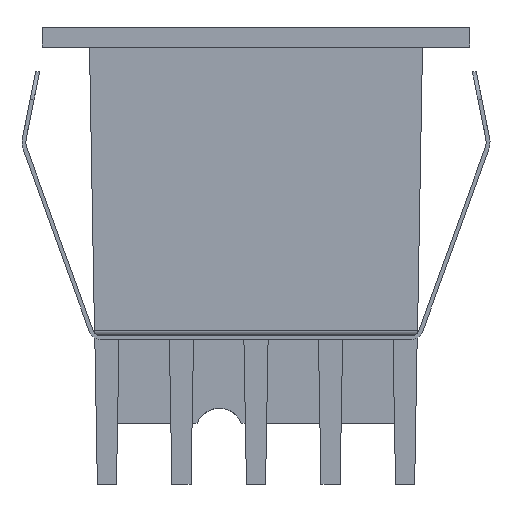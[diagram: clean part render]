
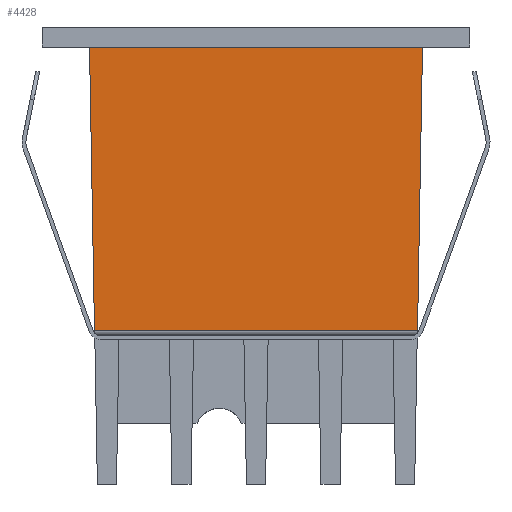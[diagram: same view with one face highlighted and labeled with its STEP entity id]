
A CAD part, front view. The second image highlights one B-rep face of the part: STEP entity #4428.
In plain terms, the highlighted planar face has unit normal (0, -1, -0.018).
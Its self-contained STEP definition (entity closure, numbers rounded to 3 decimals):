
#437=FACE_OUTER_BOUND('',#715,.T.);
#715=EDGE_LOOP('',(#3953,#3954,#3955,#3956));
#1169=LINE('',#7485,#1637);
#1179=LINE('',#7514,#1647);
#1185=LINE('',#7530,#1653);
#1186=LINE('',#7531,#1654);
#1637=VECTOR('',#5993,304.8);
#1647=VECTOR('',#6019,304.8);
#1653=VECTOR('',#6037,304.8);
#1654=VECTOR('',#6038,304.8);
#2135=VERTEX_POINT('',#7481);
#2136=VERTEX_POINT('',#7483);
#2147=VERTEX_POINT('',#7513);
#2151=VERTEX_POINT('',#7529);
#2735=EDGE_CURVE('',#2135,#2136,#1169,.T.);
#2749=EDGE_CURVE('',#2136,#2147,#1179,.T.);
#2757=EDGE_CURVE('',#2135,#2151,#1185,.T.);
#2758=EDGE_CURVE('',#2151,#2147,#1186,.T.);
#3953=ORIENTED_EDGE('',*,*,#2757,.F.);
#3954=ORIENTED_EDGE('',*,*,#2735,.T.);
#3955=ORIENTED_EDGE('',*,*,#2749,.T.);
#3956=ORIENTED_EDGE('',*,*,#2758,.F.);
#4174=PLANE('',#4824);
#4428=ADVANCED_FACE('',(#437),#4174,.T.);
#4824=AXIS2_PLACEMENT_3D('',#7528,#6035,#6036);
#5993=DIRECTION('',(-1.,0.,0.));
#6019=DIRECTION('',(0.017,0.017,-1.));
#6035=DIRECTION('center_axis',(0.,-1.,-0.017));
#6036=DIRECTION('ref_axis',(-1.,0.,0.));
#6037=DIRECTION('',(-0.017,0.017,-1.));
#6038=DIRECTION('',(-1.,0.,0.));
#7481=CARTESIAN_POINT('',(17.13,-40.232,0.));
#7483=CARTESIAN_POINT('',(-17.13,-40.232,0.));
#7485=CARTESIAN_POINT('',(17.13,-40.232,0.));
#7513=CARTESIAN_POINT('',(-16.62,-39.722,-29.193));
#7514=CARTESIAN_POINT('',(-17.13,-40.232,0.));
#7528=CARTESIAN_POINT('Origin',(17.13,-40.232,0.));
#7529=CARTESIAN_POINT('',(16.62,-39.722,-29.193));
#7530=CARTESIAN_POINT('',(17.13,-40.232,0.));
#7531=CARTESIAN_POINT('',(16.62,-39.722,-29.193));
